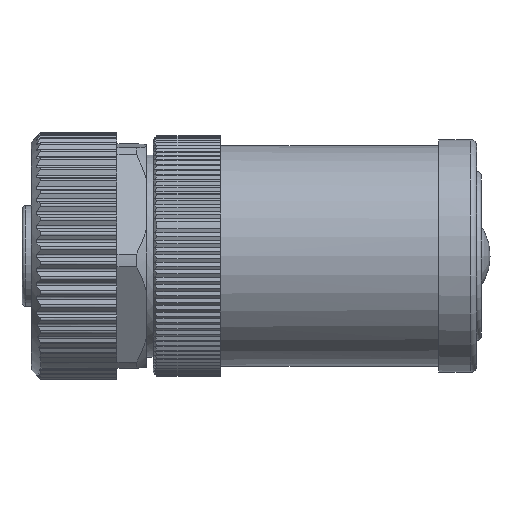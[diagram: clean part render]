
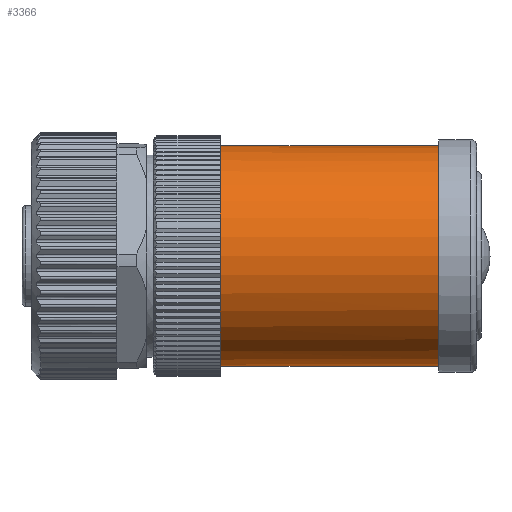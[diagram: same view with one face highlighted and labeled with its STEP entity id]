
A CAD part, top view. The second image highlights one B-rep face of the part: STEP entity #3366.
In plain terms, the highlighted cylindrical face has radius 9 mm (diameter 18 mm), a full revolution.
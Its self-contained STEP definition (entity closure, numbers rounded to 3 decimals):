
#2658=ELLIPSE('',#12700,12.728,9.);
#2659=ELLIPSE('',#12701,12.728,9.);
#2660=ELLIPSE('',#12702,12.728,9.);
#2670=CYLINDRICAL_SURFACE('',#12704,9.);
#3366=ADVANCED_FACE('',(#4433,#4434),#2670,.T.);
#4433=FACE_BOUND('',#4551,.T.);
#4434=FACE_BOUND('',#4552,.T.);
#4551=EDGE_LOOP('',(#5311));
#4552=EDGE_LOOP('',(#5312,#5313,#5314,#5315));
#5311=ORIENTED_EDGE('',*,*,#10322,.F.);
#5312=ORIENTED_EDGE('',*,*,#10323,.F.);
#5313=ORIENTED_EDGE('',*,*,#10324,.F.);
#5314=ORIENTED_EDGE('',*,*,#10325,.F.);
#5315=ORIENTED_EDGE('',*,*,#10326,.T.);
#9075=VERTEX_POINT('',#17284);
#9076=VERTEX_POINT('',#17286);
#9077=VERTEX_POINT('',#17287);
#9078=VERTEX_POINT('',#17289);
#9079=VERTEX_POINT('',#17291);
#10322=EDGE_CURVE('',#9075,#9075,#12202,.T.);
#10323=EDGE_CURVE('',#9076,#9077,#2658,.T.);
#10324=EDGE_CURVE('',#9078,#9076,#2659,.T.);
#10325=EDGE_CURVE('',#9079,#9078,#2660,.T.);
#10326=EDGE_CURVE('',#9079,#9077,#12203,.T.);
#12202=CIRCLE('',#12699,9.);
#12203=CIRCLE('',#12703,9.);
#12699=AXIS2_PLACEMENT_3D('',#17283,#13909,#13910);
#12700=AXIS2_PLACEMENT_3D('',#17285,#13911,#13912);
#12701=AXIS2_PLACEMENT_3D('',#17288,#13913,#13914);
#12702=AXIS2_PLACEMENT_3D('',#17290,#13915,#13916);
#12703=AXIS2_PLACEMENT_3D('',#17292,#13917,#13918);
#12704=AXIS2_PLACEMENT_3D('',#17293,#13919,#13920);
#13909=DIRECTION('',(-1.,0.,0.));
#13910=DIRECTION('',(0.,0.,-1.));
#13911=DIRECTION('',(-0.707,0.,-0.707));
#13912=DIRECTION('',(0.707,0.,-0.707));
#13913=DIRECTION('',(0.707,0.,-0.707));
#13914=DIRECTION('',(0.707,0.,0.707));
#13915=DIRECTION('',(-0.707,0.,-0.707));
#13916=DIRECTION('',(0.707,0.,-0.707));
#13917=DIRECTION('',(-1.,0.,0.));
#13918=DIRECTION('',(0.,0.,-1.));
#13919=DIRECTION('',(1.,0.,0.));
#13920=DIRECTION('',(0.,0.,-1.));
#17283=CARTESIAN_POINT('',(3.3,0.,0.));
#17284=CARTESIAN_POINT('',(3.3,0.,-9.));
#17285=CARTESIAN_POINT('',(13.5,0.,0.));
#17286=CARTESIAN_POINT('',(13.5,9.,0.));
#17287=CARTESIAN_POINT('',(21.1,4.821,-7.6));
#17288=CARTESIAN_POINT('',(13.5,0.,0.));
#17289=CARTESIAN_POINT('',(13.5,-9.,0.));
#17290=CARTESIAN_POINT('',(13.5,0.,0.));
#17291=CARTESIAN_POINT('',(21.1,-4.821,-7.6));
#17292=CARTESIAN_POINT('',(21.1,0.,0.));
#17293=CARTESIAN_POINT('',(10.1,0.,0.));
